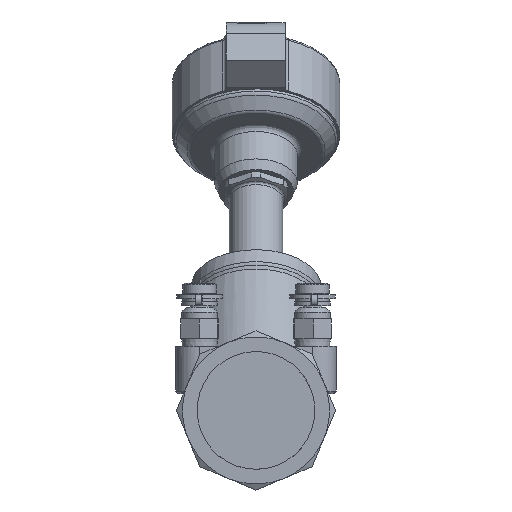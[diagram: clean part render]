
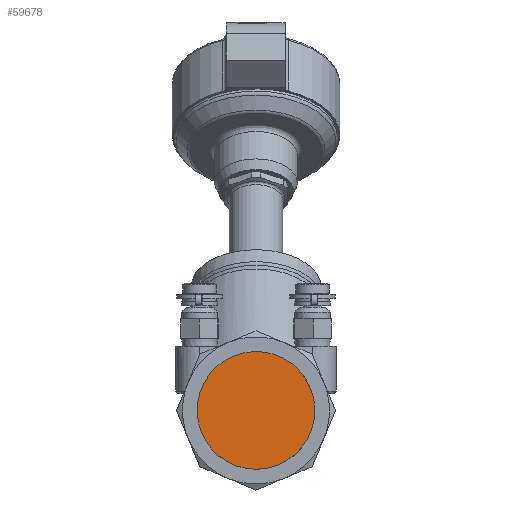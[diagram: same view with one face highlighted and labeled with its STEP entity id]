
A CAD part, left-side view. The second image highlights one B-rep face of the part: STEP entity #59678.
In plain terms, the highlighted free-form (B-spline) face has degree [1, 1] with [2, 2] control points.
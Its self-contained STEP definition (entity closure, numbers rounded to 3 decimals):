
#957=CARTESIAN_POINT('',(-100.,-17.187,14.4));
#958=VERTEX_POINT('',#957);
#959=CARTESIAN_POINT('',(-100.,-16.665,14.4));
#960=VERTEX_POINT('',#959);
#961=CARTESIAN_POINT('',(-100.,-17.187,14.4));
#962=DIRECTION('',(0.,1.0,0.));
#963=VECTOR('',#962,0.522);
#964=LINE('',#961,#963);
#965=EDGE_CURVE('',#958,#960,#964,.T.);
#1676=CARTESIAN_POINT('',(-100.,-16.614,15.058));
#1677=VERTEX_POINT('',#1676);
#1678=CARTESIAN_POINT('',(-100.,-16.665,14.4));
#1679=CARTESIAN_POINT('',(-100.,-16.64,14.727));
#1680=CARTESIAN_POINT('',(-100.,-16.614,15.058));
#1688=(BOUNDED_CURVE()B_SPLINE_CURVE(2,(#1678,#1679,#1680),.UNSPECIFIED.,.F.,.U.)B_SPLINE_CURVE_WITH_KNOTS((3,3),(0.0,0.07),.UNSPECIFIED.)CURVE()GEOMETRIC_REPRESENTATION_ITEM()RATIONAL_B_SPLINE_CURVE((1.0,1.,1.))REPRESENTATION_ITEM(''));
#1689=EDGE_CURVE('',#960,#1677,#1688,.T.);
#1928=CARTESIAN_POINT('',(-100.,0.,0.));
#1929=DIRECTION('',(-1.0,0.0,0.0));
#1930=DIRECTION('',(0.0,-1.0,0.0));
#1931=AXIS2_PLACEMENT_3D('',#1928,#1929,#1930);
#1932=CIRCLE('',#1931,22.422);
#1933=EDGE_CURVE('',#1677,#958,#1932,.T.);
#59668=CARTESIAN_POINT('',(-100.,22.422,22.423));
#59669=CARTESIAN_POINT('',(-100.,-22.423,22.423));
#59670=CARTESIAN_POINT('',(-100.,22.422,-22.422));
#59671=CARTESIAN_POINT('',(-100.,-22.423,-22.422));
#59672=B_SPLINE_SURFACE_WITH_KNOTS('',1,1,((#59668,#59670),(#59669,#59671)),.UNSPECIFIED.,.F.,.F.,.U.,(2,2),(2,2),(0.0,44.845),(0.0,44.845),.UNSPECIFIED.);
#59673=ORIENTED_EDGE('',*,*,#1689,.T.);
#59674=ORIENTED_EDGE('',*,*,#1933,.T.);
#59675=ORIENTED_EDGE('',*,*,#965,.T.);
#59676=EDGE_LOOP('',(#59673,#59674,#59675));
#59677=FACE_OUTER_BOUND('',#59676,.T.);
#59678=ADVANCED_FACE('',(#59677),#59672,.F.);
